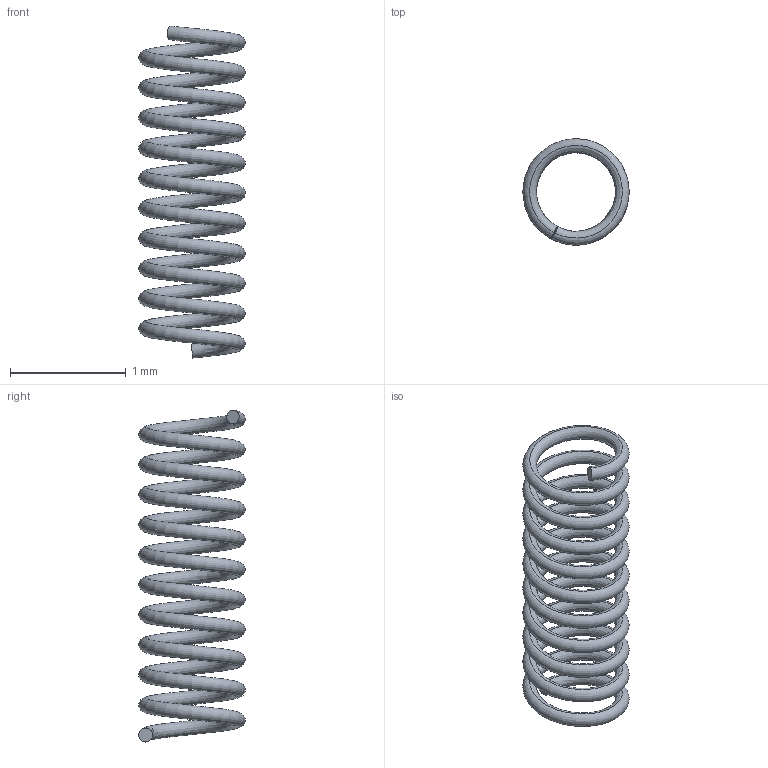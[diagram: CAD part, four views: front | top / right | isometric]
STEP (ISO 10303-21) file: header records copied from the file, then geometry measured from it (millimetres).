
FILE_DESCRIPTION((''),'2;1');
FILE_NAME('SPRING__W___ANY_PRT','2008-06-30T',('GRA'),(''),'PRO/ENGINEER BY PARAMETRIC TECHNOLOGY CORPORATION, 2006170','PRO/ENGINEER BY PARAMETRIC TECHNOLOGY CORPORATION, 2006170','');
FILE_SCHEMA(('CONFIG_CONTROL_DESIGN'));
Length unit declared in the file: millimetre
Products named in the file (1): SPRING__W___ANY_PRT
Bounding box: 0.92 x 0.92 x 2.87 mm (x, y, z)
Volume: 0.3 mm3; surface area: 10.1 mm2
Topology: 1 solids, 1 shells, 4 faces, 6 edges, 4 vertices
Faces by surface type: bspline 2, plane 2
Entity records: 18574 total; most frequent: CARTESIAN_POINT 18478, ORIENTED_EDGE 12, B_SPLINE_CURVE_WITH_KNOTS 6, EDGE_CURVE 6, VERTEX_POINT 4, EDGE_LOOP 4, FACE_OUTER_BOUND 4, ADVANCED_FACE 4
